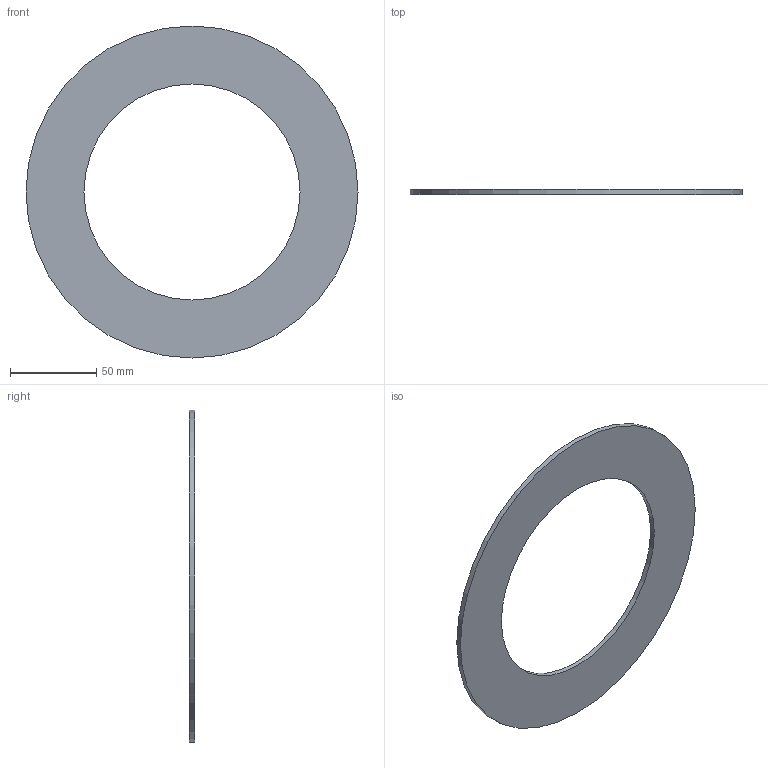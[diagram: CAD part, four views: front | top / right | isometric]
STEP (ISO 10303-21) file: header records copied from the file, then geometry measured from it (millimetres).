
FILE_DESCRIPTION(/* description */ ('Unknown'),/* implementation_level */ '2;1');
FILE_NAME(/* name */ 'GUA.140B',/* time_stamp */ '2021-04-01T12:21:52+02:00',/* author */ ('Unknown'),/* organization */ ('Unknown'),/* preprocessor_version */ 'ST-DEVELOPER v16.7',/* originating_system */ 'Solid Edge',/* authorisation */ 'Unknown');
FILE_SCHEMA (('AUTOMOTIVE_DESIGN {1 0 10303 214 3 1 1}'));
Length unit declared in the file: millimetre
Products named in the file (1): GUA.140B
Bounding box: 192 x 3 x 192 mm (x, y, z)
Volume: 50043.2 mm3; surface area: 36349.8 mm2
Topology: 1 solids, 1 shells, 4 faces, 6 edges, 4 vertices
Faces by surface type: cylinder 2, plane 2
Full cylindrical faces by diameter (mm): 125 x1, 192 x1
Entity records: 118 total; most frequent: DIRECTION 18, CARTESIAN_POINT 13, AXIS2_PLACEMENT_3D 9, ORIENTED_EDGE 8, EDGE_LOOP 8, FACE_BOUND 8, EDGE_CURVE 4, VERTEX_POINT 4
